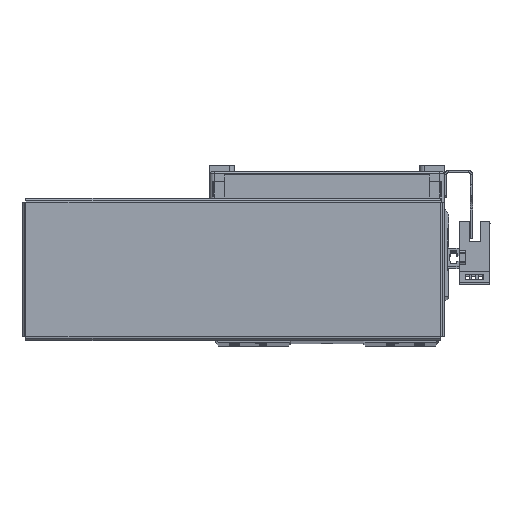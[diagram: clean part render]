
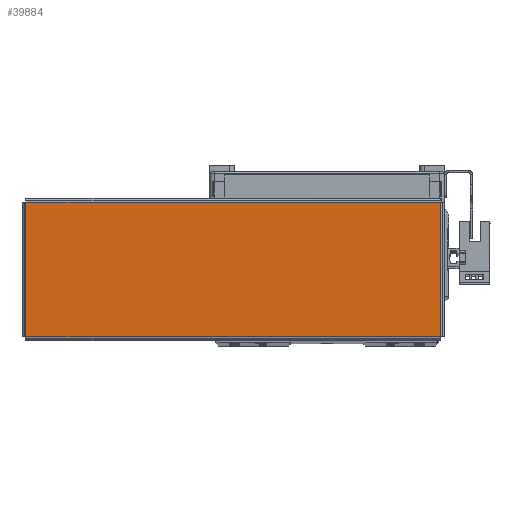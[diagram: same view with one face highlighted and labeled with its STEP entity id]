
A CAD part, top view. The second image highlights one B-rep face of the part: STEP entity #39884.
In plain terms, the highlighted planar face has unit normal (0, 0, 1) as drawn and (0, -1, 0) by its records, which use the part's own axes.
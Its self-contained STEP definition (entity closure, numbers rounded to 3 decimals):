
#2335 = EDGE_CURVE ( 'NONE', #21984, #22040, #11967, .T. ) ;
#2351 = EDGE_CURVE ( 'NONE', #22040, #22047, #11971, .T. ) ;
#2359 = EDGE_CURVE ( 'NONE', #21944, #21984, #11982, .T. ) ;
#2412 = EDGE_CURVE ( 'NONE', #22047, #21944, #12077, .T. ) ;
#11957 = VECTOR ( 'NONE', #47998, 1000. ) ;
#11967 = LINE ( 'NONE', #47971, #11957 ) ;
#11971 = LINE ( 'NONE', #48005, #11974 ) ;
#11974 = VECTOR ( 'NONE', #48036, 1000. ) ;
#11982 = LINE ( 'NONE', #48128, #11990 ) ;
#11990 = VECTOR ( 'NONE', #48158, 1000. ) ;
#11997 = VECTOR ( 'NONE', #48323, 1000. ) ;
#12077 = LINE ( 'NONE', #48317, #11997 ) ;
#14213 = AXIS2_PLACEMENT_3D ( 'NONE', #19459, #19478, #19467 ) ;
#17343 = FACE_OUTER_BOUND ( 'NONE', #45714, .T. ) ;
#19459 = CARTESIAN_POINT ( 'NONE',  ( 0., -1., 0. ) ) ;
#19467 = DIRECTION ( 'NONE',  ( 0., 0., 1. ) ) ;
#19478 = DIRECTION ( 'NONE',  ( 0., 1., 0. ) ) ;
#19489 = PLANE ( 'NONE',  #14213 ) ;
#21944 = VERTEX_POINT ( 'NONE', #32138 ) ;
#21984 = VERTEX_POINT ( 'NONE', #32198 ) ;
#22040 = VERTEX_POINT ( 'NONE', #32235 ) ;
#22047 = VERTEX_POINT ( 'NONE', #32318 ) ;
#32138 = CARTESIAN_POINT ( 'NONE',  ( -91.863, -1., -29.763 ) ) ;
#32198 = CARTESIAN_POINT ( 'NONE',  ( 91.863, -1., -29.763 ) ) ;
#32235 = CARTESIAN_POINT ( 'NONE',  ( 91.863, -1., 29.763 ) ) ;
#32318 = CARTESIAN_POINT ( 'NONE',  ( -91.863, -1., 29.763 ) ) ;
#39884 = ADVANCED_FACE ( 'NONE', ( #17343 ), #19489, .F. ) ;
#45714 = EDGE_LOOP ( 'NONE', ( #63041, #63055, #63051, #63054 ) ) ;
#47971 = CARTESIAN_POINT ( 'NONE',  ( 91.863, -1., -29.793 ) ) ;
#47998 = DIRECTION ( 'NONE',  ( 0., 0., 1. ) ) ;
#48005 = CARTESIAN_POINT ( 'NONE',  ( 91.893, -1., 29.763 ) ) ;
#48036 = DIRECTION ( 'NONE',  ( -1., 0., 0. ) ) ;
#48128 = CARTESIAN_POINT ( 'NONE',  ( -91.893, -1., -29.763 ) ) ;
#48158 = DIRECTION ( 'NONE',  ( 1., 0., 0. ) ) ;
#48317 = CARTESIAN_POINT ( 'NONE',  ( -91.863, -1., 29.793 ) ) ;
#48323 = DIRECTION ( 'NONE',  ( 0., 0., -1. ) ) ;
#63041 = ORIENTED_EDGE ( 'NONE', *, *, #2359, .T. ) ;
#63051 = ORIENTED_EDGE ( 'NONE', *, *, #2351, .T. ) ;
#63054 = ORIENTED_EDGE ( 'NONE', *, *, #2412, .T. ) ;
#63055 = ORIENTED_EDGE ( 'NONE', *, *, #2335, .T. ) ;
